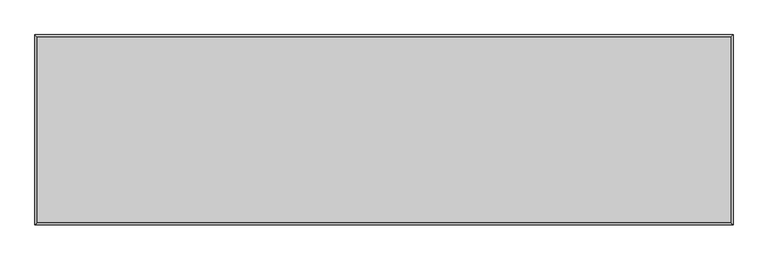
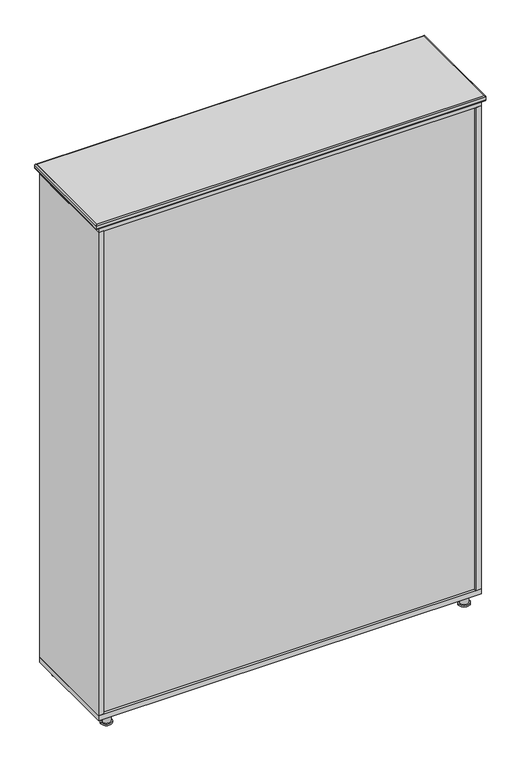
"""IFC4 building model written with IfcOpenShell, lengths in millimetres: furniture geometry, 书柜7 : W800*D419*H1515mm."""

import ifcopenshell
import ifcopenshell.guid

model = None  # the IFC model being written
_history = None  # IfcOwnerHistory: only IFC2X3 demands one
_inside = {}  # id of a spatial element -> (the spatial element, [elements in it])
_under = {}  # id of a project, library or spatial element -> (it, [spatial elements below it])
_declared = {}  # id of a project -> (the project, [libraries it declares])
_typed = {}  # id of a type object -> (the type object, [elements of that type])
_made_of = {}  # id of a material, layer set ... -> (it, [elements and type objects made of it])


def new_model(schema):
    """Start an empty IFC model of exactly this schema.

    Asked for "IFC4X3", IfcOpenShell would pick the latest addendum, in which some entities
    have other attributes; the version numbers below select the first issue.
    IFC2X3 requires an IfcOwnerHistory on every rooted entity: one is made here for all.
    """
    global model, _history
    if schema == "IFC4X3":
        model = ifcopenshell.file(schema_version=(4, 3, 0, 0))
    else:
        model = ifcopenshell.file(schema=schema)
    _inside.clear()
    _under.clear()
    _declared.clear()
    _typed.clear()
    _made_of.clear()
    _history = None
    if model.schema == "IFC2X3":
        org = make("IfcOrganization", Name="unknown")
        user = make(
            "IfcPersonAndOrganization",
            ThePerson=make("IfcPerson", FamilyName="unknown"),
            TheOrganization=org,
        )
        app = make(
            "IfcApplication",
            ApplicationDeveloper=org,
            Version="unknown",
            ApplicationFullName="unknown",
            ApplicationIdentifier="unknown",
        )
        _history = make(
            "IfcOwnerHistory",
            OwningUser=user,
            OwningApplication=app,
            ChangeAction="ADDED",
            CreationDate=0,
        )
    return model


def make(cls, **values):
    """One entity of the class cls with the attributes given. An attribute that is None is left unset."""
    return model.create_entity(
        cls, **{name: value for name, value in values.items() if value is not None}
    )


def rooted(cls, **values):
    """An entity with a GlobalId (a new one), such as an element, a storey or a relation."""
    return make(cls, GlobalId=ifcopenshell.guid.new(), OwnerHistory=_history, **values)


def si_unit(unit_type, name, prefix=None):
    """IfcSIUnit, for example si_unit("LENGTHUNIT", "METRE", prefix="MILLI")."""
    return make("IfcSIUnit", UnitType=unit_type, Prefix=prefix, Name=name)


def assignment(units):
    """IfcUnitAssignment: the units of a project."""
    return None if units is None else make("IfcUnitAssignment", Units=units)


def point(xyz):
    """IfcCartesianPoint."""
    return None if xyz is None else make("IfcCartesianPoint", Coordinates=xyz)


def direction(xyz):
    """IfcDirection."""
    return None if xyz is None else make("IfcDirection", DirectionRatios=xyz)


def frame(location, z_axis=None, x_axis=None):
    """IfcAxis2Placement3D, a coordinate frame: its origin and axes. An axis left out is left unset."""
    return make(
        "IfcAxis2Placement3D",
        Location=point(location),
        Axis=direction(z_axis),
        RefDirection=direction(x_axis),
    )


def frame_2d(location, x_axis=None):
    """IfcAxis2Placement2D, a coordinate frame in the plane: its origin and x axis."""
    return make(
        "IfcAxis2Placement2D", Location=point(location), RefDirection=direction(x_axis)
    )


def origin():
    """The frame at (0, 0, 0) with its axes left unset."""
    return frame((0.0, 0.0, 0.0))


def origin_with_axes():
    """The frame at (0, 0, 0) with the z axis (0, 0, 1) and the x axis (1, 0, 0) written out."""
    return frame((0.0, 0.0, 0.0), z_axis=(0.0, 0.0, 1.0), x_axis=(1.0, 0.0, 0.0))


def place(relative_to, where):
    """IfcLocalPlacement: puts the frame where relative to a parent placement (None: the world)."""
    return make(
        "IfcLocalPlacement", PlacementRelTo=relative_to, RelativePlacement=where
    )


def context(
    kind, dimensions, precision=None, world=None, true_north=None, identifier=None
):
    """IfcGeometricRepresentationContext, for example the 3D "Model" context."""
    return make(
        "IfcGeometricRepresentationContext",
        ContextIdentifier=identifier,
        ContextType=kind,
        CoordinateSpaceDimension=dimensions,
        Precision=precision,
        WorldCoordinateSystem=world,
        TrueNorth=true_north,
    )


def project(units=None, contexts=None):
    """IfcProject with its units and contexts."""
    return rooted(
        "IfcProject",
        Name="project",
        RepresentationContexts=contexts,
        UnitsInContext=assignment(units),
    )


def spatial(cls, under=None, at=None, **own):
    """A site, building, storey or space (cls), placed at a placement, below another one or the project."""
    s = rooted(cls, ObjectPlacement=at, **own)
    if under is not None:
        _under.setdefault(under.id(), (under, []))[1].append(s)
    return s


def polyline(points):
    """IfcPolyline through the points."""
    return make("IfcPolyline", Points=[point(p) for p in points])


def circle_curve(where, radius):
    """IfcCircle in the frame where."""
    return make("IfcCircle", Position=where, Radius=radius)


def ellipse_curve(where, semi_axis1, semi_axis2):
    """IfcEllipse in the frame where."""
    return make(
        "IfcEllipse", Position=where, SemiAxis1=semi_axis1, SemiAxis2=semi_axis2
    )


def trimmed(basis, trim1, trim2, sense, master):
    """IfcTrimmedCurve: the piece of a basis curve between two trims."""
    return make(
        "IfcTrimmedCurve",
        BasisCurve=basis,
        Trim1=trim1,
        Trim2=trim2,
        SenseAgreement=sense,
        MasterRepresentation=master,
    )


def segment(curve, same_sense, transition):
    """IfcCompositeCurveSegment."""
    return make(
        "IfcCompositeCurveSegment",
        Transition=transition,
        SameSense=same_sense,
        ParentCurve=curve,
    )


def composite_curve(segments, self_intersect=None):
    """IfcCompositeCurve: segments joined end to end."""
    return make("IfcCompositeCurve", Segments=segments, SelfIntersect=self_intersect)


def outline(outer, holes=None, kind="AREA"):
    """IfcArbitraryClosedProfileDef: a profile drawn as a closed curve; with holes, ...WithVoids."""
    if holes is None:
        return make("IfcArbitraryClosedProfileDef", ProfileType=kind, OuterCurve=outer)
    return make(
        "IfcArbitraryProfileDefWithVoids",
        ProfileType=kind,
        OuterCurve=outer,
        InnerCurves=holes,
    )


def extrude(swept, where, along, depth):
    """IfcExtrudedAreaSolid: the profile swept, set in the frame where, extruded along a direction by depth."""
    return make(
        "IfcExtrudedAreaSolid",
        SweptArea=swept,
        Position=where,
        ExtrudedDirection=direction(along),
        Depth=depth,
    )


def shape(context_of_items, identifier, shape_type, items):
    """IfcShapeRepresentation: the items that make up one representation, for example the "Body"."""
    return make(
        "IfcShapeRepresentation",
        ContextOfItems=context_of_items,
        RepresentationIdentifier=identifier,
        RepresentationType=shape_type,
        Items=items,
    )


def source(mapping_origin, context_of_items, identifier, shape_type, items):
    """IfcRepresentationMap: a shape defined once, which mapped items show again and again."""
    return make(
        "IfcRepresentationMap",
        MappingOrigin=mapping_origin,
        MappedRepresentation=shape(context_of_items, identifier, shape_type, items),
    )


def transform(
    local_origin,
    x_axis=None,
    y_axis=None,
    z_axis=None,
    scale=None,
    scale2=None,
    scale3=None,
    uniform=True,
):
    """IfcCartesianTransformationOperator3D, or its non-uniform kind. x_axis, y_axis, z_axis: its Axis1, 2, 3."""
    if uniform:
        return make(
            "IfcCartesianTransformationOperator3D",
            Axis1=direction(x_axis),
            Axis2=direction(y_axis),
            LocalOrigin=point(local_origin),
            Scale=scale,
            Axis3=direction(z_axis),
        )
    return make(
        "IfcCartesianTransformationOperator3DnonUniform",
        Axis1=direction(x_axis),
        Axis2=direction(y_axis),
        LocalOrigin=point(local_origin),
        Scale=scale,
        Axis3=direction(z_axis),
        Scale2=scale2,
        Scale3=scale3,
    )


def mapped(mapping_source, mapping_target):
    """IfcMappedItem: shows the shape of a source again, moved by a transform."""
    return make(
        "IfcMappedItem", MappingSource=mapping_source, MappingTarget=mapping_target
    )


def made_of(thing, what):
    """Note that an element or type object is made of a material, layer set ...; save() writes the relation."""
    if what is not None:
        _made_of.setdefault(what.id(), (what, []))[1].append(thing)
    return thing


def element(
    cls,
    number,
    at=None,
    inside=None,
    cuts=None,
    type_object=None,
    material=None,
    context=None,
    identifier="Body",
    shape_type=None,
    held_by="IfcProductDefinitionShape",
    body=None,
    shapes=None,
    **own,
):
    """One element of the class cls, such as IfcWall. Its Tag is "e" and its number.

    at: its placement. inside: the storey or other place that contains it. cuts: it is an
    opening in that element (IfcRelVoidsElement). A single representation is given by context,
    identifier, shape_type and body (its items); several are given by shapes. held_by: the class
    of the entity that holds the representations. save() writes the other relations.
    """
    e = rooted(cls, Tag="e%d" % number, ObjectPlacement=at, **own)
    if body is not None:
        shapes = [shape(context, identifier, shape_type, body)]
    if shapes is not None:
        e.Representation = make(held_by, Representations=shapes)
    if inside is not None:
        _inside.setdefault(inside.id(), (inside, []))[1].append(e)
    if cuts is not None:
        rooted(
            "IfcRelVoidsElement", RelatingBuildingElement=cuts, RelatedOpeningElement=e
        )
    if type_object is not None:
        _typed.setdefault(type_object.id(), (type_object, []))[1].append(e)
    return made_of(e, material)


def aggregate(whole, parts):
    """IfcRelAggregates: a whole, such as a stair, and the parts it consists of."""
    return rooted("IfcRelAggregates", RelatingObject=whole, RelatedObjects=parts)


def save(model, path):
    """Write the relations noted so far, then the file.

    IfcRelAggregates (storeys below a building ...), IfcRelContainedInSpatialStructure (elements
    in a storey), IfcRelDefinesByType, IfcRelAssociatesMaterial and IfcRelDeclares: one each for
    every whole, place, type object, material and project.
    """
    for whole, parts in _under.values():
        aggregate(whole, parts)
    for where, things in _inside.values():
        rooted(
            "IfcRelContainedInSpatialStructure",
            RelatedElements=things,
            RelatingStructure=where,
        )
    for kind, things in _typed.values():
        rooted("IfcRelDefinesByType", RelatedObjects=things, RelatingType=kind)
    for what, things in _made_of.values():
        rooted("IfcRelAssociatesMaterial", RelatedObjects=things, RelatingMaterial=what)
    for by, libraries in _declared.values():
        rooted("IfcRelDeclares", RelatingContext=by, RelatedDefinitions=libraries)
    model.write(path)


def plane_surface(at):
    """IfcPlane: the flat surface through the origin of the frame at, square to its z axis."""
    return make("IfcPlane", Position=at)


def cylinder_surface(at, radius):
    """IfcCylindricalSurface: all points at the distance radius from the z axis of the frame at."""
    return make("IfcCylindricalSurface", Position=at, Radius=radius)


def advanced_brep(points, edges, surfaces, faces):
    """IfcAdvancedBrep: a solid bounded by faces that lie on surfaces and meet in shared edges.

    An edge is (start, end): straight between two places in points (the first is 0);
    or (start, end, curve); or (start, end, curve, False) where it runs against its curve.
    A face is (place in surfaces, loops), or (place, loops, False) where it looks against
    its surface's normal. A loop lists edges by number (the first is 1), with a minus sign
    where the edge is run from its end to its start. The first loop is the outer one.
    """
    corners = [point(p) for p in points]
    vertices = [make("IfcVertexPoint", VertexGeometry=c) for c in corners]
    made = []
    for start, end, *more in edges:
        made.append(
            make(
                "IfcEdgeCurve",
                EdgeStart=vertices[start],
                EdgeEnd=vertices[end],
                EdgeGeometry=more[0] if more else make("IfcPolyline", Points=[corners[start], corners[end]]),
                SameSense=more[1] if len(more) > 1 else True,
            )
        )
    hull = []
    for where, loops, *sense in faces:
        bounds = []
        for j, loop in enumerate(loops):
            ring = [make("IfcOrientedEdge", EdgeElement=made[abs(k) - 1], Orientation=k > 0) for k in loop]
            bounds.append(
                make(
                    "IfcFaceOuterBound" if j == 0 else "IfcFaceBound",
                    Bound=make("IfcEdgeLoop", EdgeList=ring),
                    Orientation=True,
                )
            )
        hull.append(make("IfcAdvancedFace", Bounds=bounds, FaceSurface=surfaces[where], SameSense=sense[0] if sense else True))
    return make("IfcAdvancedBrep", Outer=make("IfcClosedShell", CfsFaces=hull))


def furniture_e894c18f(model_context):
    return source(origin(), model_context, "Body", "SolidModel", [
        extrude(outline(polyline([(525.0, -159.2785466), (-525.0, -159.2785466), (-525.0, 115.0), (525.0, 115.0), (525.0, -159.2785466)])), frame((0.0, 0.0, 397.0), z_axis=(0.0, 0.0, 1.0), x_axis=(1.0, 0.0, 0.0)), (0.0, 0.0, 1.0), 16.0),
        extrude(outline(polyline([(525.0, -159.2785466), (-525.0, -159.2785466), (-525.0, 115.0), (525.0, 115.0), (525.0, -159.2785466)])), frame((0.0, 0.0, 1117.0), z_axis=(0.0, 0.0, 1.0), x_axis=(1.0, 0.0, 0.0)), (0.0, 0.0, 1.0), 16.0),
        extrude(outline(polyline([(525.0, -165.0), (-525.0, -165.0), (-525.0, -159.2785466), (525.0, -159.2785466), (525.0, -165.0)])), frame((0.0, 0.0, 45.0), z_axis=(0.0, 0.0, 1.0), x_axis=(1.0, 0.0, 0.0)), (0.0, 0.0, 1.0), 1440.0),
        extrude(outline(composite_curve([segment(trimmed(circle_curve(frame_2d((505.0, -149.3474913)), 11.561262), [point((516.561262, -149.3474913))], [point((493.438738, -149.3474913))], False, "CARTESIAN"), True, "CONTINUOUS"), segment(trimmed(circle_curve(frame_2d((505.0, -149.3474913)), 11.561262), [point((493.438738, -149.3474913))], [point((516.561262, -149.3474913))], False, "CARTESIAN"), True, "CONTINUOUS")], self_intersect=False)), frame((0.0, 0.0, 4.4532093), z_axis=(0.0, 0.0, 1.0), x_axis=(1.0, 0.0, 0.0)), (0.0, 0.0, 1.0), 25.5467907),
        extrude(outline(composite_curve([segment(trimmed(circle_curve(frame_2d((505.0, -149.3474913)), 15.4868656), [point((520.4868656, -149.3474913))], [point((489.5131344, -149.3474913))], False, "CARTESIAN"), True, "CONTINUOUS"), segment(trimmed(circle_curve(frame_2d((505.0, -149.3474913)), 15.4868656), [point((489.5131344, -149.3474913))], [point((520.4868656, -149.3474913))], False, "CARTESIAN"), True, "CONTINUOUS")], self_intersect=False)), origin_with_axes(), (0.0, 0.0, 1.0), 4.4532093),
        extrude(outline(composite_curve([segment(trimmed(circle_curve(frame_2d((-505.0, -149.3474913)), 11.561262), [point((-516.561262, -149.3474913))], [point((-493.438738, -149.3474913))], False, "CARTESIAN"), True, "CONTINUOUS"), segment(trimmed(circle_curve(frame_2d((-505.0, -149.3474913)), 11.561262), [point((-493.438738, -149.3474913))], [point((-516.561262, -149.3474913))], False, "CARTESIAN"), True, "CONTINUOUS")], self_intersect=False)), frame((0.0, 0.0, 4.4532093), z_axis=(0.0, 0.0, 1.0), x_axis=(1.0, 0.0, 0.0)), (0.0, 0.0, 1.0), 25.5467907),
        extrude(outline(composite_curve([segment(trimmed(circle_curve(frame_2d((-505.0, -149.3474913)), 15.4868656), [point((-520.4868656, -149.3474913))], [point((-489.5131344, -149.3474913))], False, "CARTESIAN"), True, "CONTINUOUS"), segment(trimmed(circle_curve(frame_2d((-505.0, -149.3474913)), 15.4868656), [point((-489.5131344, -149.3474913))], [point((-520.4868656, -149.3474913))], False, "CARTESIAN"), True, "CONTINUOUS")], self_intersect=False)), origin_with_axes(), (0.0, 0.0, 1.0), 4.4532093),
        extrude(outline(composite_curve([segment(trimmed(circle_curve(frame_2d((505.0, 88.0)), 11.561262), [point((516.561262, 88.0))], [point((493.438738, 88.0))], False, "CARTESIAN"), True, "CONTINUOUS"), segment(trimmed(circle_curve(frame_2d((505.0, 88.0)), 11.561262), [point((493.438738, 88.0))], [point((516.561262, 88.0))], False, "CARTESIAN"), True, "CONTINUOUS")], self_intersect=False)), frame((0.0, 0.0, 4.4532093), z_axis=(0.0, 0.0, 1.0), x_axis=(1.0, 0.0, 0.0)), (0.0, 0.0, 1.0), 25.5467907),
        extrude(outline(composite_curve([segment(trimmed(circle_curve(frame_2d((505.0, 88.0)), 15.4868656), [point((520.4868656, 88.0))], [point((489.5131344, 88.0))], False, "CARTESIAN"), True, "CONTINUOUS"), segment(trimmed(circle_curve(frame_2d((505.0, 88.0)), 15.4868656), [point((489.5131344, 88.0))], [point((520.4868656, 88.0))], False, "CARTESIAN"), True, "CONTINUOUS")], self_intersect=False)), origin_with_axes(), (0.0, 0.0, 1.0), 4.4532093),
        extrude(outline(composite_curve([segment(trimmed(circle_curve(frame_2d((-505.0, 88.0)), 11.561262), [point((-516.561262, 88.0))], [point((-493.438738, 88.0))], False, "CARTESIAN"), True, "CONTINUOUS"), segment(trimmed(circle_curve(frame_2d((-505.0, 88.0)), 11.561262), [point((-493.438738, 88.0))], [point((-516.561262, 88.0))], False, "CARTESIAN"), True, "CONTINUOUS")], self_intersect=False)), frame((0.0, 0.0, 4.4532093), z_axis=(0.0, 0.0, 1.0), x_axis=(1.0, 0.0, 0.0)), (0.0, 0.0, 1.0), 25.5467907),
        extrude(outline(composite_curve([segment(trimmed(circle_curve(frame_2d((-505.0, 88.0)), 15.4868656), [point((-520.4868656, 88.0))], [point((-489.5131344, 88.0))], False, "CARTESIAN"), True, "CONTINUOUS"), segment(trimmed(circle_curve(frame_2d((-505.0, 88.0)), 15.4868656), [point((-489.5131344, 88.0))], [point((-520.4868656, 88.0))], False, "CARTESIAN"), True, "CONTINUOUS")], self_intersect=False)), origin_with_axes(), (0.0, 0.0, 1.0), 4.4532093),
        advanced_brep(
        [(550.0, -178.0, 1512.0), (550.0, 122.0, 1512.0), (547.0, 119.0, 1515.0), (547.0, -175.0, 1515.0), (550.0, -178.0, 1503.0), (550.0, 122.0, 1503.0), (547.0, -175.0, 1500.0), (547.0, 119.0, 1500.0), (-550.0, 122.0, 1512.0), (-547.0, 119.0, 1515.0), (-550.0, 122.0, 1503.0), (-547.0, 119.0, 1500.0), (-550.0, -178.0, 1512.0), (-547.0, -175.0, 1515.0), (-550.0, -178.0, 1503.0), (-547.0, -175.0, 1500.0)],
        [
            (0, 1),
            (1, 2, ellipse_curve(frame((547.0, 119.0, 1512.0), z_axis=(0.7071067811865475, -0.7071067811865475, 0.0), x_axis=(-0.7071067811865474, -0.7071067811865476, 0.0)), 4.2426407, 3.0)),
            (2, 3),
            (3, 0, ellipse_curve(frame((547.0, -175.0, 1512.0), z_axis=(0.7071067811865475, 0.7071067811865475, 0.0), x_axis=(0.7071067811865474, -0.7071067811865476, 0.0)), 4.2426407, 3.0)),
            (4, 5),
            (5, 1),
            (0, 4),
            (6, 7),
            (7, 5, ellipse_curve(frame((547.0, 119.0, 1503.0), z_axis=(0.7071067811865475, -0.7071067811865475, 0.0), x_axis=(-0.7071067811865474, -0.7071067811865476, 0.0)), 4.2426407, 3.0)),
            (4, 6, ellipse_curve(frame((547.0, -175.0, 1503.0), z_axis=(0.7071067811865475, 0.7071067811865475, 0.0), x_axis=(0.7071067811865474, -0.7071067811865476, 0.0)), 4.2426407, 3.0)),
            (2, 7),
            (6, 3),
            (1, 8),
            (8, 9, ellipse_curve(frame((-547.0, 119.0, 1512.0), z_axis=(0.7071067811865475, 0.7071067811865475, 0.0), x_axis=(0.7071067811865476, -0.7071067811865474, 0.0)), 4.2426407, 3.0)),
            (9, 2),
            (5, 10),
            (10, 8),
            (7, 11),
            (11, 10, ellipse_curve(frame((-547.0, 119.0, 1503.0), z_axis=(0.7071067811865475, 0.7071067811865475, 0.0), x_axis=(0.7071067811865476, -0.7071067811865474, 0.0)), 4.2426407, 3.0)),
            (9, 11),
            (8, 12),
            (12, 13, ellipse_curve(frame((-547.0, -175.0, 1512.0), z_axis=(-0.7071067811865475, 0.7071067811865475, 0.0), x_axis=(0.7071067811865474, 0.7071067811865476, 0.0)), 4.2426407, 3.0)),
            (13, 9),
            (10, 14),
            (14, 12),
            (11, 15),
            (15, 14, ellipse_curve(frame((-547.0, -175.0, 1503.0), z_axis=(-0.7071067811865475, 0.7071067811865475, 0.0), x_axis=(0.7071067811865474, 0.7071067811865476, 0.0)), 4.2426407, 3.0)),
            (13, 15),
            (12, 0),
            (3, 13),
            (14, 4),
            (15, 6),
        ],
        [
            cylinder_surface(frame((547.0, -178.0, 1512.0), z_axis=(0.0, -1.0, 0.0), x_axis=(1.0, 0.0, 0.0)), 3.0),
            plane_surface(frame((550.0, -178.0, 1512.0), z_axis=(1.0, 0.0, 0.0), x_axis=(0.0, 1.0, 0.0))),
            cylinder_surface(frame((547.0, -178.0, 1503.0), z_axis=(0.0, -1.0, 0.0), x_axis=(1.0, 0.0, 0.0)), 3.0),
            plane_surface(frame((547.0, -175.0, 1500.0), z_axis=(-1.0, 0.0, 0.0), x_axis=(0.0, 1.0, 0.0))),
            cylinder_surface(frame((550.0, 119.0, 1512.0), z_axis=(1.0, 0.0, 0.0), x_axis=(0.0, 1.0, 0.0)), 3.0),
            plane_surface(frame((550.0, 122.0, 1512.0), z_axis=(0.0, 1.0, 0.0), x_axis=(-1.0, 0.0, 0.0))),
            cylinder_surface(frame((550.0, 119.0, 1503.0), z_axis=(1.0, 0.0, 0.0), x_axis=(0.0, 1.0, 0.0)), 3.0),
            plane_surface(frame((547.0, 119.0, 1500.0), z_axis=(0.0, -1.0, 0.0), x_axis=(-1.0, 0.0, 0.0))),
            cylinder_surface(frame((-547.0, 122.0, 1512.0), z_axis=(0.0, 1.0, 0.0), x_axis=(-1.0, 0.0, 0.0)), 3.0),
            plane_surface(frame((-550.0, 122.0, 1512.0), z_axis=(-1.0, 0.0, 0.0), x_axis=(0.0, -1.0, 0.0))),
            cylinder_surface(frame((-547.0, 122.0, 1503.0), z_axis=(0.0, 1.0, 0.0), x_axis=(-1.0, 0.0, 0.0)), 3.0),
            plane_surface(frame((-547.0, 119.0, 1500.0), z_axis=(1.0, 0.0, 0.0), x_axis=(0.0, -1.0, 0.0))),
            cylinder_surface(frame((-550.0, -175.0, 1512.0), z_axis=(-1.0, 0.0, 0.0), x_axis=(0.0, -1.0, 0.0)), 3.0),
            plane_surface(frame((-550.0, -178.0, 1512.0), z_axis=(0.0, -1.0, 0.0), x_axis=(1.0, 0.0, 0.0))),
            cylinder_surface(frame((-550.0, -175.0, 1503.0), z_axis=(-1.0, 0.0, 0.0), x_axis=(0.0, -1.0, 0.0)), 3.0),
            plane_surface(frame((-547.0, -175.0, 1500.0), z_axis=(0.0, 1.0, 0.0), x_axis=(1.0, 0.0, 0.0))),
        ],
        [
            (0, [[1, 2, 3, 4]]),
            (1, [[5, 6, -1, 7]]),
            (2, [[8, 9, -5, 10]]),
            (3, [[-3, 11, -8, 12]]),
            (4, [[13, 14, 15, -2]]),
            (5, [[16, 17, -13, -6]]),
            (6, [[18, 19, -16, -9]]),
            (7, [[-15, 20, -18, -11]]),
            (8, [[21, 22, 23, -14]]),
            (9, [[24, 25, -21, -17]]),
            (10, [[26, 27, -24, -19]]),
            (11, [[-23, 28, -26, -20]]),
            (12, [[29, -4, 30, -22]]),
            (13, [[31, -7, -29, -25]]),
            (14, [[32, -10, -31, -27]]),
            (15, [[-30, -12, -32, -28]]),
        ],
    ),
        extrude(outline(polyline([(547.0, -175.0), (-547.0, -175.0), (-547.0, 119.0), (547.0, 119.0), (547.0, -175.0)])), frame((0.0, 0.0, 1500.0), z_axis=(0.0, 0.0, 1.0), x_axis=(1.0, 0.0, 0.0)), (0.0, 0.0, 1.0), 15.0),
        extrude(outline(polyline([(525.0, 115.0), (540.0, 115.0), (540.0, -172.0), (525.0, -172.0), (525.0, 115.0)])), frame((0.0, 0.0, 45.0), z_axis=(0.0, 0.0, 1.0), x_axis=(1.0, 0.0, 0.0)), (0.0, 0.0, 1.0), 1440.0),
        extrude(outline(polyline([(-525.0, -172.0), (-540.0, -172.0), (-540.0, 115.0), (-525.0, 115.0), (-525.0, -172.0)])), frame((0.0, 0.0, 45.0), z_axis=(0.0, 0.0, 1.0), x_axis=(1.0, 0.0, 0.0)), (0.0, 0.0, 1.0), 1440.0),
        extrude(outline(polyline([(525.0, -159.2785466), (-525.0, -159.2785466), (-525.0, 115.0), (525.0, 115.0), (525.0, -159.2785466)])), frame((0.0, 0.0, 757.5), z_axis=(0.0, 0.0, 1.0), x_axis=(1.0, 0.0, 0.0)), (0.0, 0.0, 1.0), 15.0),
        extrude(outline(polyline([(540.0, 115.0), (540.0, -172.0), (-540.0, -172.0), (-540.0, 115.0), (540.0, 115.0)])), frame((0.0, 0.0, 1485.0), z_axis=(0.0, 0.0, 1.0), x_axis=(1.0, 0.0, 0.0)), (0.0, 0.0, 1.0), 15.0),
        extrude(outline(polyline([(540.0, 115.0), (540.0, -172.0), (-540.0, -172.0), (-540.0, 115.0), (540.0, 115.0)])), frame((0.0, 0.0, 30.0), z_axis=(0.0, 0.0, 1.0), x_axis=(1.0, 0.0, 0.0)), (0.0, 0.0, 1.0), 15.0),
    ])


if __name__ == "__main__":
    model = new_model("IFC4")
    model_context = context("Model", 3, world=origin())
    ifc_project = project(units=[si_unit("LENGTHUNIT", "METRE", prefix="MILLI")], contexts=[model_context])
    site = spatial("IfcSite", under=ifc_project)
    building = spatial("IfcBuilding", under=site)
    placement = place(None, origin())
    furniture_shape = furniture_e894c18f(model_context)
    element("IfcFurniture", 1, ObjectType="书柜7 : W800*D419*H1515mm", at=placement, inside=building, context=model_context, shape_type="MappedRepresentation", body=[
        mapped(furniture_shape, transform((0.0, 0.0, 0.0), x_axis=(1.0, 0.0, 0.0), y_axis=(0.0, 1.0, 0.0), z_axis=(0.0, 0.0, 1.0))),
    ])
    save(model, "model.ifc")
